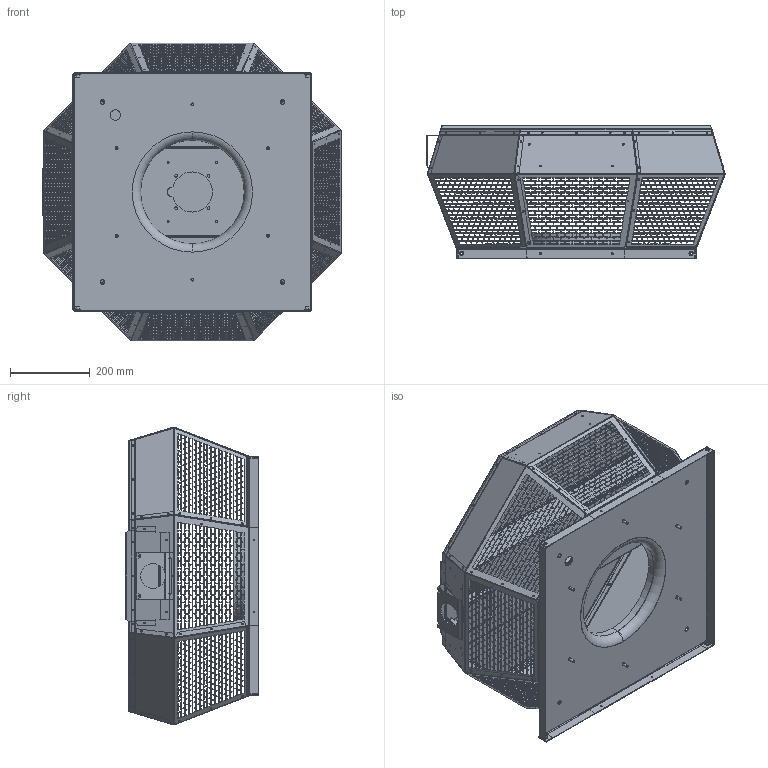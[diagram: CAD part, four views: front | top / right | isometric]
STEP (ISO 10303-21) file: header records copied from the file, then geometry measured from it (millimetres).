
FILE_DESCRIPTION (( 'STEP AP203' ), '1' );
FILE_NAME ('131110-DHAE4P30.STEP', '2015-02-26T07:54:52', ( '' ), ( '' ), 'SwSTEP 2.0', 'SolidWorks 2012', '' );
FILE_SCHEMA (( 'CONFIG_CONTROL_DESIGN' ));
Length unit declared in the file: millimetre
Products named in the file (1): 131110-DHAE4P30
Bounding box: 746.93 x 332.97 x 745.01 mm (x, y, z)
Surface area: 3181416.4 mm2 (no closed solid volume)
Topology: 0 solids, 58 shells, 6052 faces, 24713 edges, 17287 vertices
Faces by surface type: plane 5460, cylinder 510, torus 36, bspline 26, cone 20
Entity records: 257991 total; most frequent: CARTESIAN_POINT 49876, ORIENTED_EDGE 40383, DIRECTION 37882, EDGE_CURVE 24713, VECTOR 23080, LINE 23080, VERTEX_POINT 17287, EDGE_LOOP 10209
